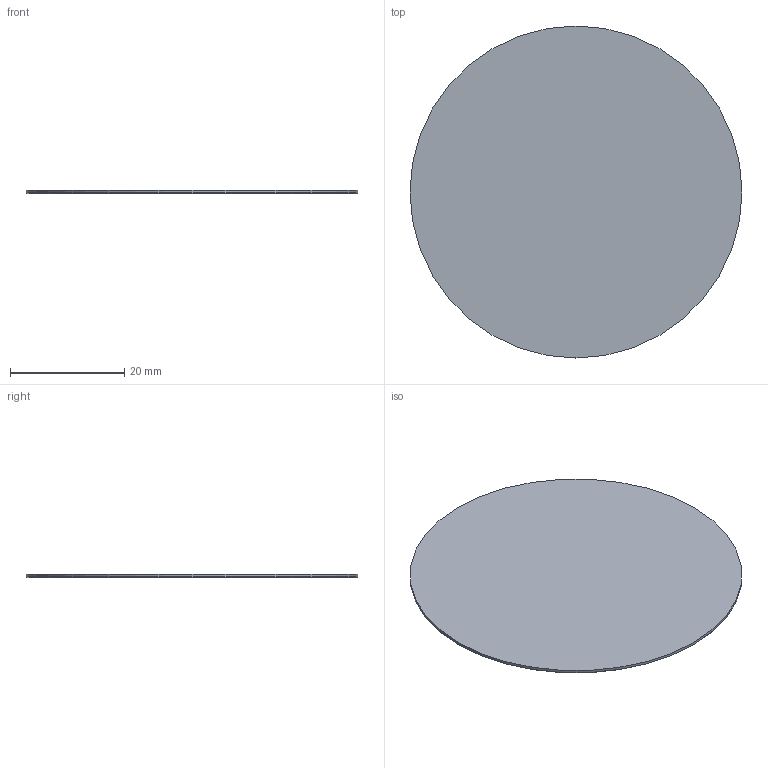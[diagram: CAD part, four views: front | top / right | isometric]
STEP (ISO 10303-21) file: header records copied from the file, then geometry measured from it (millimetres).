
FILE_DESCRIPTION(('Open CASCADE Model'),'2;1');
FILE_NAME('Open CASCADE Shape Model','2026-11-25T01:59:35',('Author'),( 'Open CASCADE'),'Open CASCADE STEP processor 7.9','Open CASCADE 7.9' ,'Unknown');
FILE_SCHEMA(('AUTOMOTIVE_DESIGN { 1 0 10303 214 1 1 1 1 }'));
Length unit declared in the file: millimetre
Products named in the file (1): Open CASCADE STEP translator 7.9 7
Bounding box: 58 x 58 x 0.6 mm (x, y, z)
Volume: 1583.2 mm3; surface area: 5377.4 mm2
Topology: 1 solids, 1 shells, 4 faces, 5 edges, 3 vertices
Faces by surface type: plane 2, cylinder 1, cone 1
Full cylindrical faces by diameter (mm): 58 x1
Entity records: 157 total; most frequent: DIRECTION 26, CARTESIAN_POINT 25, ORIENTED_EDGE 10, PCURVE 10, DEFINITIONAL_REPRESENTATION 10, AXIS2_PLACEMENT_3D 8, LINE 8, VECTOR 8
